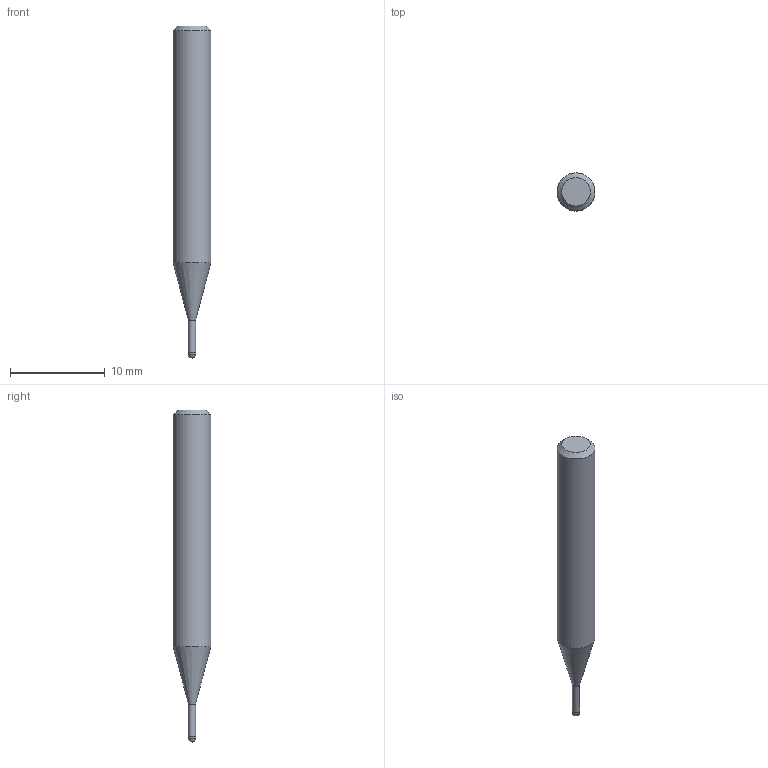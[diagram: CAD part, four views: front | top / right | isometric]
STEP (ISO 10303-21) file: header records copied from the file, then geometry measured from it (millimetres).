
FILE_DESCRIPTION((''),'2;1');
FILE_NAME('C:\Users\nsx150\AppData\Local\Temp\Mastercam 2021\QT8KEW0Y7J\TEMP.step','2021-04-23T11:20:59',(''),(''),'STEP Write','Mastercam 2021 ... CNC Software, Inc.','');
FILE_SCHEMA(('AUTOMOTIVE_DESIGN'));
Length unit declared in the file: millimetre
Products named in the file (1): None
Bounding box: 4 x 4 x 35 mm (x, y, z)
Volume: 345 mm3; surface area: 379.5 mm2
Topology: 2 solids, 2 shells, 9 faces, 14 edges, 8 vertices
Faces by surface type: plane 3, cylinder 3, cone 2, sphere 1
Full cylindrical faces by diameter (mm): 0.76 x1, 0.8 x1, 4 x1
Entity records: 211 total; most frequent: DIRECTION 36, CARTESIAN_POINT 25, AXIS2_PLACEMENT_3D 18, ORIENTED_EDGE 14, EDGE_LOOP 14, STYLED_ITEM 12, ADVANCED_FACE 9, FACE_BOUND 8
